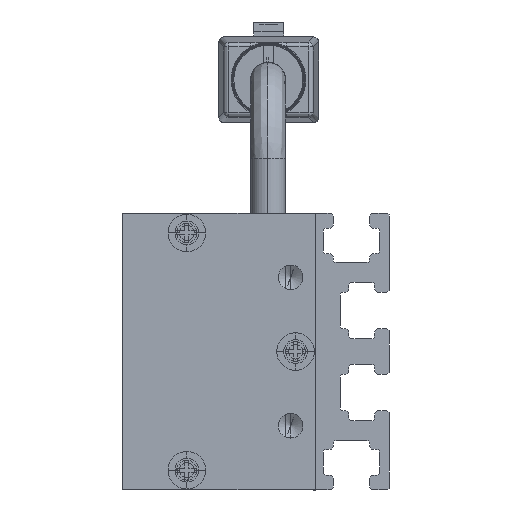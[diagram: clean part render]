
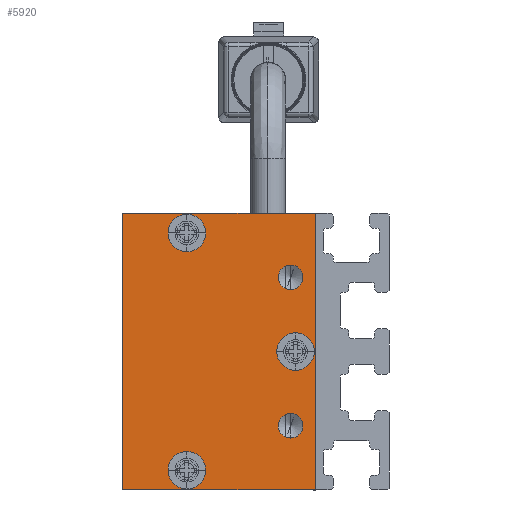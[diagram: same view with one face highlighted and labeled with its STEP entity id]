
A CAD part, left-side view. The second image highlights one B-rep face of the part: STEP entity #5920.
In plain terms, the highlighted planar face has unit normal (-1, 0, 0) as drawn and (0, 0, -1) by its records, which use the part's own axes.
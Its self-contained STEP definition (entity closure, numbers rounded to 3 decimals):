
#135 = CARTESIAN_POINT ( 'NONE',  ( -13.9, 13., -2.5 ) ) ;
#148 = DIRECTION ( 'NONE',  ( -1., 0., 0. ) ) ;
#238 = DIRECTION ( 'NONE',  ( 0., 0., -1. ) ) ;
#281 = CIRCLE ( 'NONE', #8211, 1.9 ) ;
#326 = DIRECTION ( 'NONE',  ( -1., 0., 0. ) ) ;
#390 = EDGE_CURVE ( 'NONE', #13524, #5210, #281, .T. ) ;
#559 = EDGE_CURVE ( 'NONE', #13131, #6536, #11347, .T. ) ;
#654 = LINE ( 'NONE', #11443, #2652 ) ;
#708 = CARTESIAN_POINT ( 'NONE',  ( -10.1, 13., -2.5 ) ) ;
#733 = EDGE_CURVE ( 'NONE', #12850, #13131, #13616, .T. ) ;
#989 = EDGE_CURVE ( 'NONE', #11163, #12868, #5926, .T. ) ;
#999 = DIRECTION ( 'NONE',  ( 0., 0., -1. ) ) ;
#1031 = DIRECTION ( 'NONE',  ( -1., 0., 0. ) ) ;
#1297 = DIRECTION ( 'NONE',  ( -1., 0., 0. ) ) ;
#1706 = ORIENTED_EDGE ( 'NONE', *, *, #6038, .F. ) ;
#1725 = DIRECTION ( 'NONE',  ( -1., 0., 0. ) ) ;
#1885 = FACE_BOUND ( 'NONE', #13442, .T. ) ;
#1987 = CIRCLE ( 'NONE', #7436, 1.9 ) ;
#2023 = FACE_BOUND ( 'NONE', #14041, .T. ) ;
#2027 = CARTESIAN_POINT ( 'NONE',  ( -12., 13., -2.5 ) ) ;
#2191 = VERTEX_POINT ( 'NONE', #7464 ) ;
#2238 = CARTESIAN_POINT ( 'NONE',  ( 10.1, 13., -2.5 ) ) ;
#2381 = CARTESIAN_POINT ( 'NONE',  ( 0., 2., -2.5 ) ) ;
#2550 = CIRCLE ( 'NONE', #3688, 1.9 ) ;
#2563 = EDGE_CURVE ( 'NONE', #2191, #12108, #3723, .T. ) ;
#2652 = VECTOR ( 'NONE', #1725, 1000. ) ;
#2659 = CIRCLE ( 'NONE', #2901, 1.9 ) ;
#2683 = DIRECTION ( 'NONE',  ( 0., 1., 0. ) ) ;
#2870 = EDGE_CURVE ( 'NONE', #12280, #6463, #2550, .T. ) ;
#2901 = AXIS2_PLACEMENT_3D ( 'NONE', #2381, #11831, #4516 ) ;
#3153 = DIRECTION ( 'NONE',  ( 0., 0., -1. ) ) ;
#3197 = CARTESIAN_POINT ( 'NONE',  ( -12., 13., -2.5 ) ) ;
#3213 = EDGE_LOOP ( 'NONE', ( #3515, #9342 ) ) ;
#3237 = CARTESIAN_POINT ( 'NONE',  ( 14., 0., -2.5 ) ) ;
#3300 = DIRECTION ( 'NONE',  ( 0., 0., -1. ) ) ;
#3373 = CARTESIAN_POINT ( 'NONE',  ( 0., 2., -2.5 ) ) ;
#3379 = VERTEX_POINT ( 'NONE', #4873 ) ;
#3493 = CARTESIAN_POINT ( 'NONE',  ( 7.5, 2.5, -2.5 ) ) ;
#3515 = ORIENTED_EDGE ( 'NONE', *, *, #3613, .F. ) ;
#3613 = EDGE_CURVE ( 'NONE', #5210, #13524, #10316, .T. ) ;
#3688 = AXIS2_PLACEMENT_3D ( 'NONE', #11067, #5397, #148 ) ;
#3723 = CIRCLE ( 'NONE', #5556, 1.25 ) ;
#3818 = DIRECTION ( 'NONE',  ( 1., 0., 0. ) ) ;
#4084 = CARTESIAN_POINT ( 'NONE',  ( -14., 0., -2.5 ) ) ;
#4516 = DIRECTION ( 'NONE',  ( -1., 0., 0. ) ) ;
#4583 = ORIENTED_EDGE ( 'NONE', *, *, #989, .F. ) ;
#4623 = EDGE_CURVE ( 'NONE', #12108, #2191, #13440, .T. ) ;
#4714 = DIRECTION ( 'NONE',  ( -1., 0., 0. ) ) ;
#4873 = CARTESIAN_POINT ( 'NONE',  ( -14., 19.5, -2.5 ) ) ;
#4916 = ORIENTED_EDGE ( 'NONE', *, *, #9432, .F. ) ;
#5069 = VERTEX_POINT ( 'NONE', #6098 ) ;
#5210 = VERTEX_POINT ( 'NONE', #135 ) ;
#5397 = DIRECTION ( 'NONE',  ( 0., 0., -1. ) ) ;
#5405 = EDGE_CURVE ( 'NONE', #3379, #12850, #12604, .T. ) ;
#5428 = DIRECTION ( 'NONE',  ( 0., 0., -1. ) ) ;
#5521 = DIRECTION ( 'NONE',  ( 0., 0., -1. ) ) ;
#5556 = AXIS2_PLACEMENT_3D ( 'NONE', #3493, #238, #1297 ) ;
#5638 = CARTESIAN_POINT ( 'NONE',  ( -7.5, 2.5, -2.5 ) ) ;
#5642 = AXIS2_PLACEMENT_3D ( 'NONE', #12870, #3153, #11458 ) ;
#5682 = CARTESIAN_POINT ( 'NONE',  ( -14., 0., -2.5 ) ) ;
#5872 = CIRCLE ( 'NONE', #11995, 1.25 ) ;
#5920 = ADVANCED_FACE ( 'NONE', ( #2023, #12805, #9559, #13657, #1885, #12595 ), #10402, .T. ) ;
#5925 = ORIENTED_EDGE ( 'NONE', *, *, #4623, .F. ) ;
#5926 = CIRCLE ( 'NONE', #8192, 1.25 ) ;
#5981 = ORIENTED_EDGE ( 'NONE', *, *, #10300, .F. ) ;
#5992 = ORIENTED_EDGE ( 'NONE', *, *, #9868, .F. ) ;
#6038 = EDGE_CURVE ( 'NONE', #12868, #11163, #5872, .T. ) ;
#6098 = CARTESIAN_POINT ( 'NONE',  ( -1.9, 2., -2.5 ) ) ;
#6313 = EDGE_LOOP ( 'NONE', ( #10153, #11235, #6998, #4916 ) ) ;
#6434 = CARTESIAN_POINT ( 'NONE',  ( 12., 13., -2.5 ) ) ;
#6446 = ORIENTED_EDGE ( 'NONE', *, *, #2870, .F. ) ;
#6463 = VERTEX_POINT ( 'NONE', #2238 ) ;
#6528 = CARTESIAN_POINT ( 'NONE',  ( 6.25, 2.5, -2.5 ) ) ;
#6536 = VERTEX_POINT ( 'NONE', #13364 ) ;
#6998 = ORIENTED_EDGE ( 'NONE', *, *, #5405, .F. ) ;
#7307 = CARTESIAN_POINT ( 'NONE',  ( 13.9, 13., -2.5 ) ) ;
#7337 = CARTESIAN_POINT ( 'NONE',  ( 14., 0., -2.5 ) ) ;
#7436 = AXIS2_PLACEMENT_3D ( 'NONE', #6434, #5521, #10771 ) ;
#7464 = CARTESIAN_POINT ( 'NONE',  ( 8.75, 2.5, -2.5 ) ) ;
#7959 = VECTOR ( 'NONE', #3818, 1000. ) ;
#7975 = VERTEX_POINT ( 'NONE', #13662 ) ;
#8137 = DIRECTION ( 'NONE',  ( 0., -1., 0. ) ) ;
#8192 = AXIS2_PLACEMENT_3D ( 'NONE', #11452, #12523, #4714 ) ;
#8211 = AXIS2_PLACEMENT_3D ( 'NONE', #3197, #999, #12073 ) ;
#9021 = VECTOR ( 'NONE', #8137, 1000. ) ;
#9256 = CIRCLE ( 'NONE', #12166, 1.9 ) ;
#9342 = ORIENTED_EDGE ( 'NONE', *, *, #390, .F. ) ;
#9432 = EDGE_CURVE ( 'NONE', #6536, #3379, #654, .T. ) ;
#9559 = FACE_BOUND ( 'NONE', #13383, .T. ) ;
#9787 = CARTESIAN_POINT ( 'NONE',  ( -6.25, 2.5, -2.5 ) ) ;
#9868 = EDGE_CURVE ( 'NONE', #5069, #7975, #2659, .T. ) ;
#10020 = CARTESIAN_POINT ( 'NONE',  ( 14., 19.5, -2.5 ) ) ;
#10153 = ORIENTED_EDGE ( 'NONE', *, *, #559, .F. ) ;
#10300 = EDGE_CURVE ( 'NONE', #7975, #5069, #9256, .T. ) ;
#10316 = CIRCLE ( 'NONE', #13461, 1.9 ) ;
#10402 = PLANE ( 'NONE',  #5642 ) ;
#10545 = EDGE_LOOP ( 'NONE', ( #5925, #12418 ) ) ;
#10758 = DIRECTION ( 'NONE',  ( -1., 0., 0. ) ) ;
#10771 = DIRECTION ( 'NONE',  ( -1., 0., 0. ) ) ;
#11034 = DIRECTION ( 'NONE',  ( 0., 0., -1. ) ) ;
#11067 = CARTESIAN_POINT ( 'NONE',  ( 12., 13., -2.5 ) ) ;
#11123 = VECTOR ( 'NONE', #2683, 1000. ) ;
#11163 = VERTEX_POINT ( 'NONE', #9787 ) ;
#11187 = EDGE_CURVE ( 'NONE', #6463, #12280, #1987, .T. ) ;
#11235 = ORIENTED_EDGE ( 'NONE', *, *, #733, .F. ) ;
#11347 = LINE ( 'NONE', #10020, #11123 ) ;
#11443 = CARTESIAN_POINT ( 'NONE',  ( -14., 19.5, -2.5 ) ) ;
#11452 = CARTESIAN_POINT ( 'NONE',  ( -7.5, 2.5, -2.5 ) ) ;
#11458 = DIRECTION ( 'NONE',  ( -1., 0., 0. ) ) ;
#11753 = DIRECTION ( 'NONE',  ( 0., 0., -1. ) ) ;
#11831 = DIRECTION ( 'NONE',  ( 0., 0., -1. ) ) ;
#11995 = AXIS2_PLACEMENT_3D ( 'NONE', #5638, #5428, #12034 ) ;
#12034 = DIRECTION ( 'NONE',  ( -1., 0., 0. ) ) ;
#12073 = DIRECTION ( 'NONE',  ( -1., 0., 0. ) ) ;
#12108 = VERTEX_POINT ( 'NONE', #6528 ) ;
#12166 = AXIS2_PLACEMENT_3D ( 'NONE', #3373, #3300, #1031 ) ;
#12272 = CARTESIAN_POINT ( 'NONE',  ( -8.75, 2.5, -2.5 ) ) ;
#12276 = ORIENTED_EDGE ( 'NONE', *, *, #11187, .F. ) ;
#12280 = VERTEX_POINT ( 'NONE', #7307 ) ;
#12418 = ORIENTED_EDGE ( 'NONE', *, *, #2563, .F. ) ;
#12523 = DIRECTION ( 'NONE',  ( 0., 0., -1. ) ) ;
#12595 = FACE_OUTER_BOUND ( 'NONE', #6313, .T. ) ;
#12604 = LINE ( 'NONE', #4084, #9021 ) ;
#12805 = FACE_BOUND ( 'NONE', #3213, .T. ) ;
#12850 = VERTEX_POINT ( 'NONE', #5682 ) ;
#12868 = VERTEX_POINT ( 'NONE', #12272 ) ;
#12870 = CARTESIAN_POINT ( 'NONE',  ( 0., 0., -2.5 ) ) ;
#13131 = VERTEX_POINT ( 'NONE', #7337 ) ;
#13155 = CARTESIAN_POINT ( 'NONE',  ( 7.5, 2.5, -2.5 ) ) ;
#13364 = CARTESIAN_POINT ( 'NONE',  ( 14., 19.5, -2.5 ) ) ;
#13383 = EDGE_LOOP ( 'NONE', ( #5992, #5981 ) ) ;
#13440 = CIRCLE ( 'NONE', #13671, 1.25 ) ;
#13442 = EDGE_LOOP ( 'NONE', ( #1706, #4583 ) ) ;
#13461 = AXIS2_PLACEMENT_3D ( 'NONE', #2027, #11753, #10758 ) ;
#13524 = VERTEX_POINT ( 'NONE', #708 ) ;
#13616 = LINE ( 'NONE', #3237, #7959 ) ;
#13657 = FACE_BOUND ( 'NONE', #10545, .T. ) ;
#13662 = CARTESIAN_POINT ( 'NONE',  ( 1.9, 2., -2.5 ) ) ;
#13671 = AXIS2_PLACEMENT_3D ( 'NONE', #13155, #11034, #326 ) ;
#14041 = EDGE_LOOP ( 'NONE', ( #12276, #6446 ) ) ;
